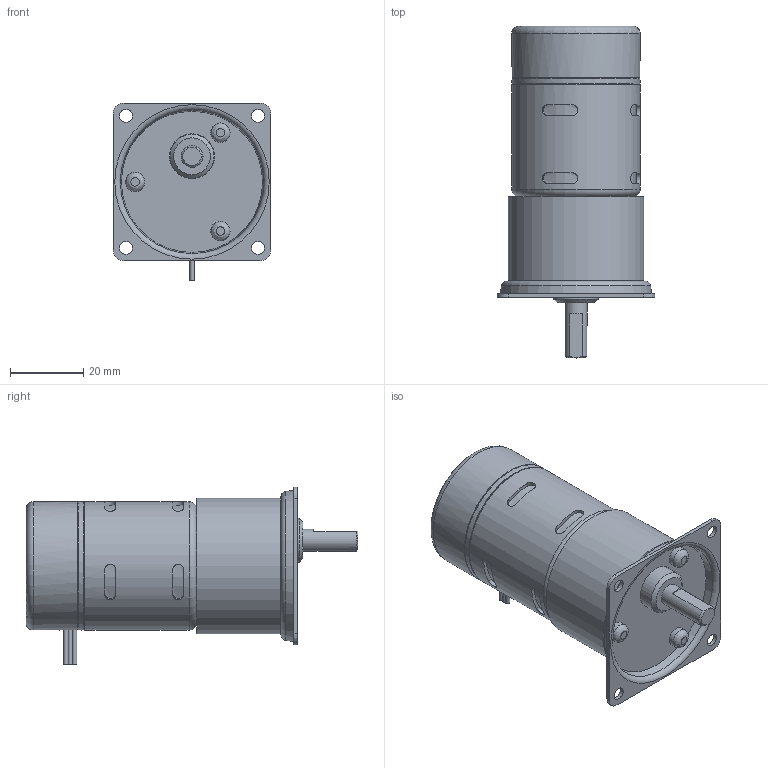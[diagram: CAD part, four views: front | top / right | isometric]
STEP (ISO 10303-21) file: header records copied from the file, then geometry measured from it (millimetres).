
FILE_DESCRIPTION((''),'2;1');
FILE_NAME('C:\Documents and Settings\SSEGAWA\デスクトップ\TP-3546B-PM-2.STP','2013-07-30T16:40:09',('SSEGAWA'),(''),'Autodesk Inventor 2010','Autodesk Inventor 2010','');
FILE_SCHEMA(('CONFIG_CONTROL_DESIGN'));
Length unit declared in the file: millimetre
Products named in the file (1): tp_3546bd_pm_2_Shrinkwrap_1
Bounding box: 43 x 90.5 x 48.5 mm (x, y, z)
Volume: 72027.5 mm3; surface area: 14468.6 mm2
Topology: 1 solids, 13 shells, 144 faces, 305 edges, 198 vertices
Faces by surface type: plane 62, cylinder 51, bspline 23, torus 4, cone 4
Full cylindrical faces by diameter (mm): 1.2 x2, 4 x3, 5.3 x3, 6 x1, 12 x1, 12.2 x1, 34.6 x1, 35 x3, 37 x1
Entity records: 4498 total; most frequent: CARTESIAN_POINT 1592, DIRECTION 573, ORIENTED_EDGE 474, AXIS2_PLACEMENT_3D 248, EDGE_CURVE 237, EDGE_LOOP 209, VERTEX_POINT 174, STYLED_ITEM 145
